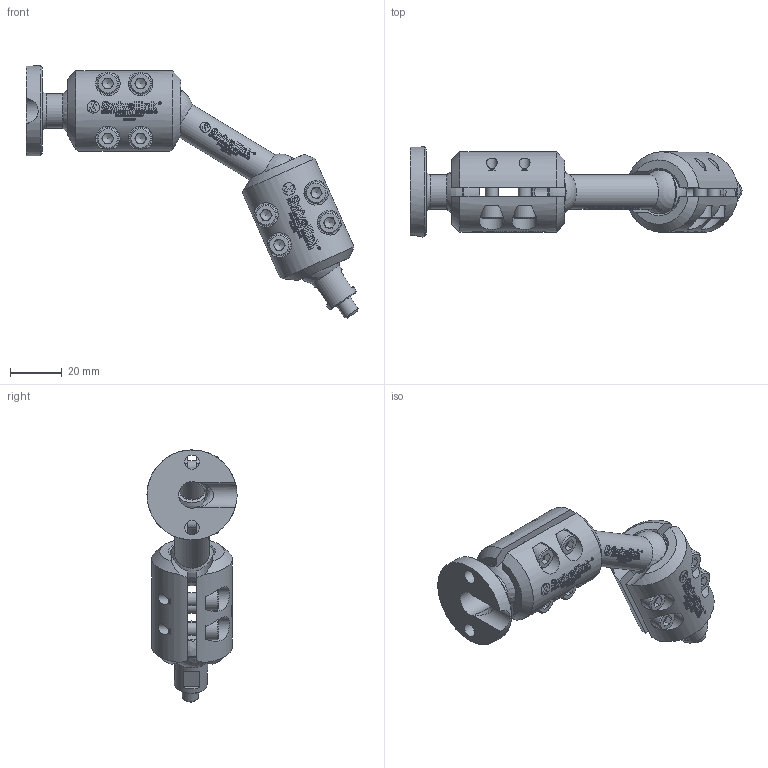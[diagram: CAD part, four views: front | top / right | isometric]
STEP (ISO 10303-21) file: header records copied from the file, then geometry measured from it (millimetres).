
FILE_DESCRIPTION (( 'STEP AP203' ), '1' );
FILE_NAME ('SLM-10050XS-5XS.STEP', '2020-08-20T12:59:54', ( '' ), ( '' ), 'SwSTEP 2.0', 'SolidWorks 2020', '' );
FILE_SCHEMA (( 'CONFIG_CONTROL_DESIGN' ));
Length unit declared in the file: inch
Products named in the file (10): SLM-2XS; MSHCS-11103323-BO_MSHCS-11103323-BO; SSSFP-25348-BO_SSSFP-25348-BO; SLM-5XS; SLM-1XS; SLM-3-50XS; SLM-10050XS-5XS
Assembly tree (17 placements, depth 3):
  SLM-10050XS-5XS
    SLM-1XS
    SLM-2XS
      SLM-2XS
      MSHCS-11103323-BO_MSHCS-11103323-BO  x4
    SLM-3-50XS
    SLM-2XS
      SLM-2XS
      MSHCS-11103323-BO_MSHCS-11103323-BO  x4
    SLM-5XS
      SLM-5XS
      SSSFP-25348-BO_SSSFP-25348-BO
Bounding box: 128.72 x 34.92 x 97.75 mm (x, y, z)
Volume: 59163.7 mm3; surface area: 33043.8 mm2
Topology: 16 solids, 16 shells, 616 faces, 5156 edges, 4851 vertices
Faces by surface type: cylinder 367, plane 166, cone 48, torus 18, sphere 16, bspline 1
Full cylindrical faces by diameter (mm): 4.2 x8, 4.976 x1, 5 x8, 5.105 x1, 5.5 x8, 5.556 x2, 6.35 x1, 8.5 x8, 10.319 x2, 12.7 x1, 13.462 x1, 13.487 x1, 34.925 x1
Entity records: 41420 total; most frequent: CARTESIAN_POINT 16200, ORIENTED_EDGE 6934, EDGE_CURVE 3467, VERTEX_POINT 3406, DIRECTION 2883, B_SPLINE_CURVE_WITH_KNOTS 2022, AXIS2_PLACEMENT_3D 1073, LINE 737
